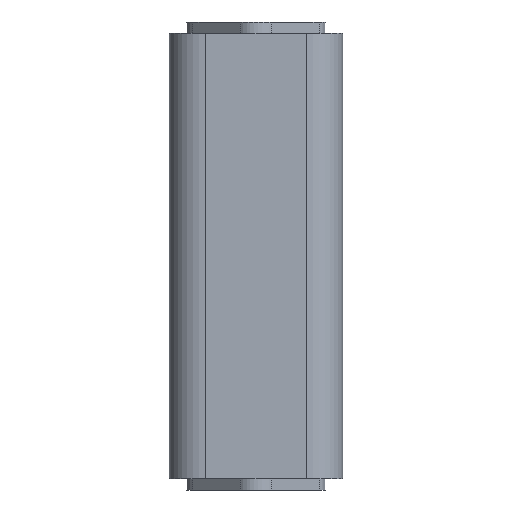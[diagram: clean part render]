
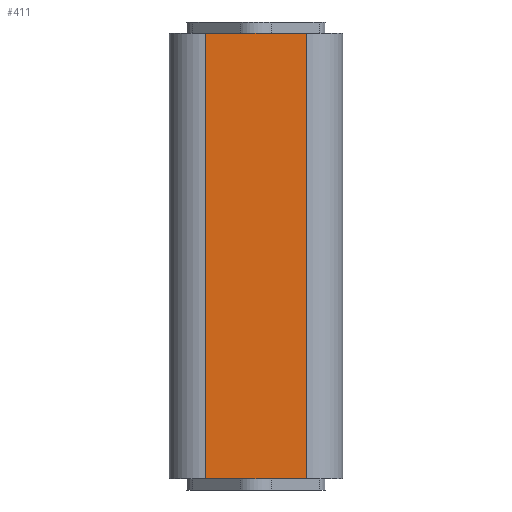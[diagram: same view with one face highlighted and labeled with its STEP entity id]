
A CAD part, front view. The second image highlights one B-rep face of the part: STEP entity #411.
In plain terms, the highlighted planar face has unit normal (0, -1, 0).
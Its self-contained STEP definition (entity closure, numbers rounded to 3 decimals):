
#346=CARTESIAN_POINT('',(22.5,-39.,200.0));
#347=VERTEX_POINT('',#346);
#355=CARTESIAN_POINT('',(22.5,-39.,0.0));
#356=VERTEX_POINT('',#355);
#357=CARTESIAN_POINT('',(22.5,-39.,0.0));
#358=DIRECTION('',(0.0,0.0,1.0));
#359=VECTOR('',#358,200.0);
#360=LINE('',#357,#359);
#361=EDGE_CURVE('',#356,#347,#360,.T.);
#381=CARTESIAN_POINT('',(22.5,-39.,0.0));
#382=DIRECTION('',(0.0,-1.0,0.0));
#383=DIRECTION('',(0.0,0.0,-1.0));
#384=AXIS2_PLACEMENT_3D('',#381,#382,#383);
#385=PLANE('',#384);
#386=CARTESIAN_POINT('',(-22.5,-39.,200.0));
#387=VERTEX_POINT('',#386);
#388=CARTESIAN_POINT('',(22.5,-39.,200.0));
#389=DIRECTION('',(-1.0,0.0,0.0));
#390=VECTOR('',#389,45.);
#391=LINE('',#388,#390);
#392=EDGE_CURVE('',#347,#387,#391,.T.);
#393=ORIENTED_EDGE('',*,*,#392,.T.);
#394=CARTESIAN_POINT('',(-22.5,-39.,0.0));
#395=VERTEX_POINT('',#394);
#396=CARTESIAN_POINT('',(-22.5,-39.,0.0));
#397=DIRECTION('',(0.0,0.0,1.0));
#398=VECTOR('',#397,200.0);
#399=LINE('',#396,#398);
#400=EDGE_CURVE('',#395,#387,#399,.T.);
#401=ORIENTED_EDGE('',*,*,#400,.F.);
#402=CARTESIAN_POINT('',(-22.5,-39.,0.0));
#403=DIRECTION('',(1.0,0.0,0.0));
#404=VECTOR('',#403,45.);
#405=LINE('',#402,#404);
#406=EDGE_CURVE('',#395,#356,#405,.T.);
#407=ORIENTED_EDGE('',*,*,#406,.T.);
#408=ORIENTED_EDGE('',*,*,#361,.T.);
#409=EDGE_LOOP('',(#393,#401,#407,#408));
#410=FACE_OUTER_BOUND('',#409,.T.);
#411=ADVANCED_FACE('',(#410),#385,.T.);
